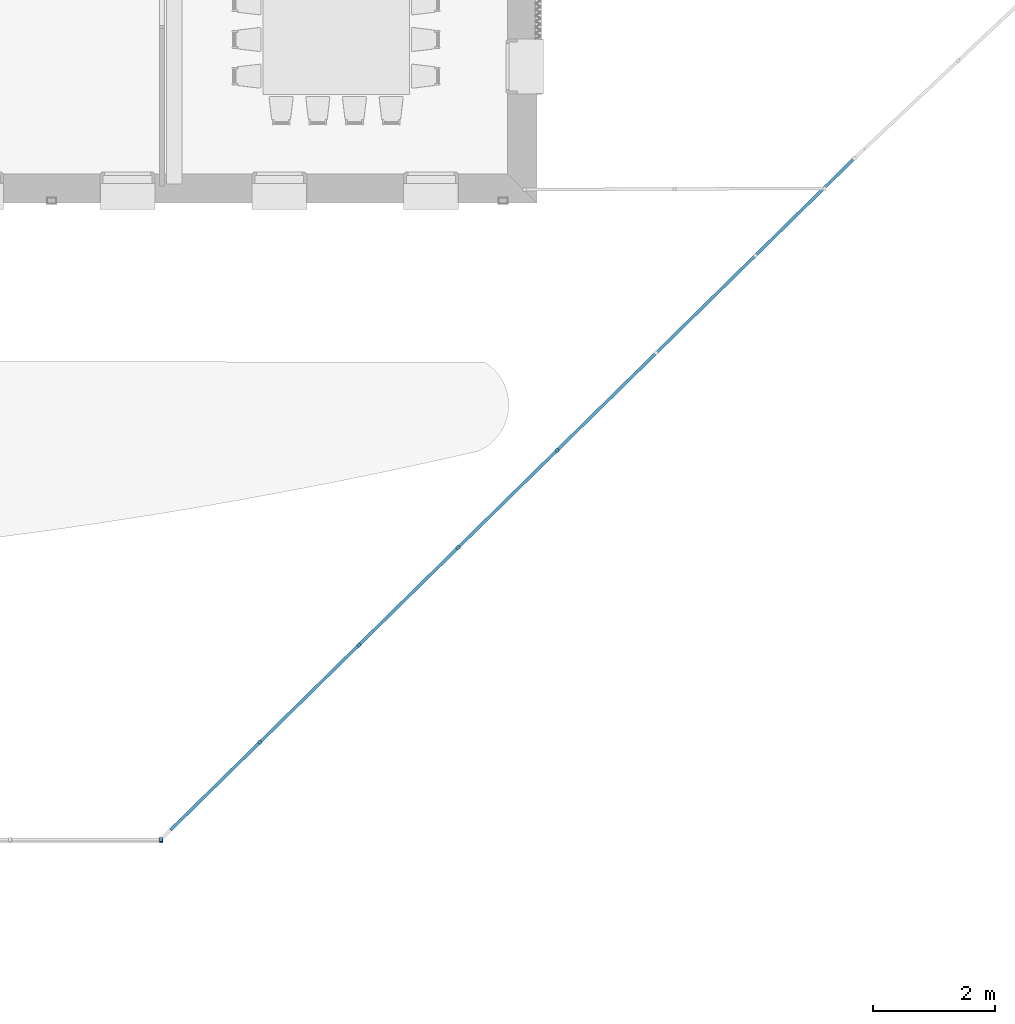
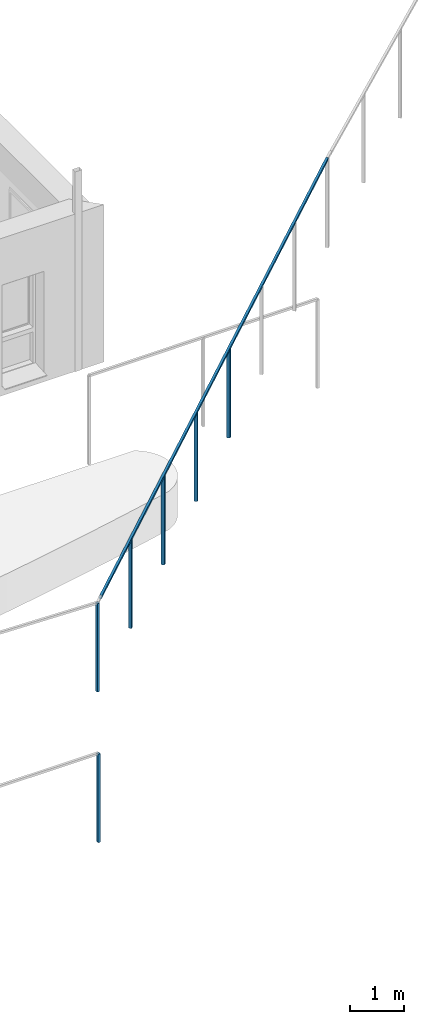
# One storey, part 57 of 91: 7 building element parts, 2 elements without a shape of their own.
"""IFC2X3 building model written with IfcOpenShell, lengths in metres."""

import ifcopenshell
import ifcopenshell.guid

model = None  # the IFC model being written
_history = None  # IfcOwnerHistory: only IFC2X3 demands one
_inside = {}  # id of a spatial element -> (the spatial element, [elements in it])
_under = {}  # id of a project, library or spatial element -> (it, [spatial elements below it])
_declared = {}  # id of a project -> (the project, [libraries it declares])
_typed = {}  # id of a type object -> (the type object, [elements of that type])
_made_of = {}  # id of a material, layer set ... -> (it, [elements and type objects made of it])


def new_model(schema):
    """Start an empty IFC model of exactly this schema.

    Asked for "IFC4X3", IfcOpenShell would pick the latest addendum, in which some entities
    have other attributes; the version numbers below select the first issue.
    IFC2X3 requires an IfcOwnerHistory on every rooted entity: one is made here for all.
    """
    global model, _history
    if schema == "IFC4X3":
        model = ifcopenshell.file(schema_version=(4, 3, 0, 0))
    else:
        model = ifcopenshell.file(schema=schema)
    _inside.clear()
    _under.clear()
    _declared.clear()
    _typed.clear()
    _made_of.clear()
    _history = None
    if model.schema == "IFC2X3":
        org = make("IfcOrganization", Name="unknown")
        user = make(
            "IfcPersonAndOrganization",
            ThePerson=make("IfcPerson", FamilyName="unknown"),
            TheOrganization=org,
        )
        app = make(
            "IfcApplication",
            ApplicationDeveloper=org,
            Version="unknown",
            ApplicationFullName="unknown",
            ApplicationIdentifier="unknown",
        )
        _history = make(
            "IfcOwnerHistory",
            OwningUser=user,
            OwningApplication=app,
            ChangeAction="ADDED",
            CreationDate=0,
        )
    return model


def make(cls, **values):
    """One entity of the class cls with the attributes given. An attribute that is None is left unset."""
    return model.create_entity(
        cls, **{name: value for name, value in values.items() if value is not None}
    )


def entity(cls, *values):
    """Any entity or typed value of the class cls, its attributes in the order of the schema. None: left unset."""
    e = model.create_entity(cls)
    for i, value in enumerate(values):
        if value is not None:
            e[i] = value
    return e


def rooted(cls, **values):
    """An entity with a GlobalId (a new one), such as an element, a storey or a relation."""
    return make(cls, GlobalId=ifcopenshell.guid.new(), OwnerHistory=_history, **values)


def si_unit(unit_type, name, prefix=None):
    """IfcSIUnit, for example si_unit("LENGTHUNIT", "METRE", prefix="MILLI")."""
    return make("IfcSIUnit", UnitType=unit_type, Prefix=prefix, Name=name)


def converted_unit(unit_type, name, factor, base, dimensions=None, offset=None):
    """IfcConversionBasedUnit, such as the inch: factor (a typed value) times the base unit."""
    return make(
        "IfcConversionBasedUnit"
        if offset is None
        else "IfcConversionBasedUnitWithOffset",
        ConversionOffset=offset,
        Dimensions=None
        if dimensions is None
        else entity("IfcDimensionalExponents", *dimensions),
        UnitType=unit_type,
        Name=name,
        ConversionFactor=make(
            "IfcMeasureWithUnit", ValueComponent=factor, UnitComponent=base
        ),
    )


def derived_unit(unit_type, elements):
    """IfcDerivedUnit: a product of units, each with its exponent."""
    return make(
        "IfcDerivedUnit",
        Elements=[
            make("IfcDerivedUnitElement", Unit=unit, Exponent=power)
            for unit, power in elements
        ],
        UnitType=unit_type,
    )


def money_unit(currency):
    """IfcMonetaryUnit."""
    return make("IfcMonetaryUnit", Currency=currency)


def assignment(units):
    """IfcUnitAssignment: the units of a project."""
    return None if units is None else make("IfcUnitAssignment", Units=units)


def point(xyz):
    """IfcCartesianPoint."""
    return None if xyz is None else make("IfcCartesianPoint", Coordinates=xyz)


def direction(xyz):
    """IfcDirection."""
    return None if xyz is None else make("IfcDirection", DirectionRatios=xyz)


def frame(location, z_axis=None, x_axis=None):
    """IfcAxis2Placement3D, a coordinate frame: its origin and axes. An axis left out is left unset."""
    return make(
        "IfcAxis2Placement3D",
        Location=point(location),
        Axis=direction(z_axis),
        RefDirection=direction(x_axis),
    )


def origin_with_axes():
    """The frame at (0, 0, 0) with the z axis (0, 0, 1) and the x axis (1, 0, 0) written out."""
    return frame((0.0, 0.0, 0.0), z_axis=(0.0, 0.0, 1.0), x_axis=(1.0, 0.0, 0.0))


def place(relative_to, where):
    """IfcLocalPlacement: puts the frame where relative to a parent placement (None: the world)."""
    return make(
        "IfcLocalPlacement", PlacementRelTo=relative_to, RelativePlacement=where
    )


def context(
    kind, dimensions, precision=None, world=None, true_north=None, identifier=None
):
    """IfcGeometricRepresentationContext, for example the 3D "Model" context."""
    return make(
        "IfcGeometricRepresentationContext",
        ContextIdentifier=identifier,
        ContextType=kind,
        CoordinateSpaceDimension=dimensions,
        Precision=precision,
        WorldCoordinateSystem=world,
        TrueNorth=true_north,
    )


def subcontext(parent, identifier, kind, view, scale=None):
    """IfcGeometricRepresentationSubContext, for example "Body" below "Model"."""
    return make(
        "IfcGeometricRepresentationSubContext",
        ContextIdentifier=identifier,
        ContextType=kind,
        ParentContext=parent,
        TargetScale=scale,
        TargetView=view,
    )


def project(units=None, contexts=None):
    """IfcProject with its units and contexts."""
    return rooted(
        "IfcProject",
        Name="project",
        RepresentationContexts=contexts,
        UnitsInContext=assignment(units),
    )


def spatial(cls, under=None, at=None, **own):
    """A site, building, storey or space (cls), placed at a placement, below another one or the project."""
    s = rooted(cls, ObjectPlacement=at, **own)
    if under is not None:
        _under.setdefault(under.id(), (under, []))[1].append(s)
    return s


def faces_of(points, faces, orient=None, outer=None):
    """IfcFace entities. A face is a list of loops; a loop is a list of indices into points, from 0.

    orient and outer hold one flag for each loop. By default every Orientation is true, the
    first loop of a face is its IfcFaceOuterBound and the others are IfcFaceBound.
    """
    made = []
    for i, loops in enumerate(faces):
        bounds = []
        for j, loop in enumerate(loops):
            is_outer = j == 0 if outer is None else outer[i][j]
            bounds.append(
                make(
                    "IfcFaceOuterBound" if is_outer else "IfcFaceBound",
                    Bound=make("IfcPolyLoop", Polygon=[points[k] for k in loop]),
                    Orientation=True if orient is None else orient[i][j],
                )
            )
        made.append(make("IfcFace", Bounds=bounds))
    return made


def faceted_brep(points, faces, orient=None, outer=None, voids=None):
    """IfcFacetedBrep: a solid bounded by flat faces; with voids (closed shells), ...WithVoids."""
    shared = [point(p) for p in points]
    hull = make("IfcClosedShell", CfsFaces=faces_of(shared, faces, orient, outer))
    if voids is None:
        return make("IfcFacetedBrep", Outer=hull)
    return make(
        "IfcFacetedBrepWithVoids",
        Outer=hull,
        Voids=[
            make(cls, CfsFaces=faces_of(shared, fs, o, b)) for cls, fs, o, b in voids
        ],
    )


def shape(context_of_items, identifier, shape_type, items):
    """IfcShapeRepresentation: the items that make up one representation, for example the "Body"."""
    return make(
        "IfcShapeRepresentation",
        ContextOfItems=context_of_items,
        RepresentationIdentifier=identifier,
        RepresentationType=shape_type,
        Items=items,
    )


def material(Name=None, Category=None):
    """IfcMaterial."""
    return make("IfcMaterial", Name=Name, Category=Category)


def made_of(thing, what):
    """Note that an element or type object is made of a material, layer set ...; save() writes the relation."""
    if what is not None:
        _made_of.setdefault(what.id(), (what, []))[1].append(thing)
    return thing


def type_object(cls, material=None, **own):
    """A type object (cls), such as IfcWallType, which elements share."""
    return made_of(rooted(cls, **own), material)


def element(
    cls,
    number,
    at=None,
    inside=None,
    cuts=None,
    type_object=None,
    material=None,
    context=None,
    identifier="Body",
    shape_type=None,
    held_by="IfcProductDefinitionShape",
    body=None,
    shapes=None,
    **own,
):
    """One element of the class cls, such as IfcWall. Its Tag is "e" and its number.

    at: its placement. inside: the storey or other place that contains it. cuts: it is an
    opening in that element (IfcRelVoidsElement). A single representation is given by context,
    identifier, shape_type and body (its items); several are given by shapes. held_by: the class
    of the entity that holds the representations. save() writes the other relations.
    """
    e = rooted(cls, Tag="e%d" % number, ObjectPlacement=at, **own)
    if body is not None:
        shapes = [shape(context, identifier, shape_type, body)]
    if shapes is not None:
        e.Representation = make(held_by, Representations=shapes)
    if inside is not None:
        _inside.setdefault(inside.id(), (inside, []))[1].append(e)
    if cuts is not None:
        rooted(
            "IfcRelVoidsElement", RelatingBuildingElement=cuts, RelatedOpeningElement=e
        )
    if type_object is not None:
        _typed.setdefault(type_object.id(), (type_object, []))[1].append(e)
    return made_of(e, material)


def aggregate(whole, parts):
    """IfcRelAggregates: a whole, such as a stair, and the parts it consists of."""
    return rooted("IfcRelAggregates", RelatingObject=whole, RelatedObjects=parts)


def save(model, path):
    """Write the relations noted so far, then the file.

    IfcRelAggregates (storeys below a building ...), IfcRelContainedInSpatialStructure (elements
    in a storey), IfcRelDefinesByType, IfcRelAssociatesMaterial and IfcRelDeclares: one each for
    every whole, place, type object, material and project.
    """
    for whole, parts in _under.values():
        aggregate(whole, parts)
    for where, things in _inside.values():
        rooted(
            "IfcRelContainedInSpatialStructure",
            RelatedElements=things,
            RelatingStructure=where,
        )
    for kind, things in _typed.values():
        rooted("IfcRelDefinesByType", RelatedObjects=things, RelatingType=kind)
    for what, things in _made_of.values():
        rooted("IfcRelAssociatesMaterial", RelatedObjects=things, RelatingMaterial=what)
    for by, libraries in _declared.values():
        rooted("IfcRelDeclares", RelatingContext=by, RelatedDefinitions=libraries)
    model.write(path)


model = new_model("IFC2X3")

# Units and contexts
model_context = context("Model", 3, precision=1e-05, world=origin_with_axes(), true_north=direction((0.0, 1.0)))
body_context = subcontext(model_context, "Body", "Model", "MODEL_VIEW")
ifc_project = project(units=[si_unit("LENGTHUNIT", "METRE"), si_unit("AREAUNIT", "SQUARE_METRE"), si_unit("VOLUMEUNIT", "CUBIC_METRE"), converted_unit("PLANEANGLEUNIT", "DEGREE", entity("IfcPlaneAngleMeasure", 0.0174532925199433), si_unit("PLANEANGLEUNIT", "RADIAN"), dimensions=[0, 0, 0, 0, 0, 0, 0]), money_unit("EUR"), converted_unit("TIMEUNIT", "Year", entity("IfcTimeMeasure", 31557600.0), si_unit("TIMEUNIT", "SECOND"), dimensions=[0, 0, 1, 0, 0, 0, 0]), si_unit("MASSUNIT", "GRAM", prefix="KILO"), si_unit("THERMODYNAMICTEMPERATUREUNIT", "DEGREE_CELSIUS"), si_unit("LUMINOUSINTENSITYUNIT", "LUMEN"), si_unit("ENERGYUNIT", "JOULE", prefix="MEGA"), derived_unit("THERMALCONDUCTANCEUNIT", [(si_unit("POWERUNIT", "WATT"), 1), (si_unit("LENGTHUNIT", "METRE"), -1), (si_unit("THERMODYNAMICTEMPERATUREUNIT", "KELVIN"), -1)]), derived_unit("SPECIFICHEATCAPACITYUNIT", [(si_unit("ENERGYUNIT", "JOULE"), 1), (si_unit("MASSUNIT", "GRAM", prefix="KILO"), -1), (si_unit("THERMODYNAMICTEMPERATUREUNIT", "KELVIN"), -1)]), derived_unit("MASSDENSITYUNIT", [(si_unit("MASSUNIT", "GRAM", prefix="KILO"), 1), (si_unit("VOLUMEUNIT", "CUBIC_METRE"), -1)])], contexts=[model_context])

# Site, building, storey
site_placement = place(None, origin_with_axes())
site = spatial("IfcSite", under=ifc_project, at=site_placement, Name="Site", CompositionType="ELEMENT")
building_placement = place(site_placement, origin_with_axes())
building = spatial("IfcBuilding", under=site, at=building_placement, Name="Bâtiment", CompositionType="ELEMENT")
storey_placement = place(building_placement, origin_with_axes())
storey = spatial("IfcBuildingStorey", under=building, at=storey_placement, Name="RDC", CompositionType="ELEMENT", Elevation=0.0)

# Proxy, building element parts
building_element_proxy_type = type_object("IfcBuildingElementProxyType", Name="Type de garde-corps", PredefinedType="NOTDEFINED")
proxy_1_placement = place(storey_placement, frame((79.63337255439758, 3.614023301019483, -2.37161404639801), z_axis=(0.0, 0.0, 1.0), x_axis=(1.0, 0.0, 0.0)))
proxy_1 = element("IfcBuildingElementProxy", 1, at=proxy_1_placement, inside=storey, type_object=building_element_proxy_type, Name="RAMPE-004")
ifc_material = material(Name="Acier Galva")
building_element_part_1_placement = place(proxy_1_placement, origin_with_axes())
building_element_part_1 = element("IfcBuildingElementPart", 2, at=building_element_part_1_placement, material=ifc_material, Name="Acier Galva", context=body_context, shape_type="Brep", body=[
    faceted_brep([(-25.48373139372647, -41.49592863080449, 3.394537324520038), (-25.48375990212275, -41.42992863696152, 3.393540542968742), (-25.48374564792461, -41.42992863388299, 5.395038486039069), (-25.53373139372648, -41.49592863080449, 3.395967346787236), (-25.53375990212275, -41.42992863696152, 3.39497056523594), (-25.53374564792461, -41.42992863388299, 5.395038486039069), (-25.48374564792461, -41.495928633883, 5.395038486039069), (-25.53374564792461, -41.495928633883, 5.395038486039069)], [[[0, 1, 2]], [[0, 3, 4, 1]], [[1, 4, 5, 2]], [[0, 2, 6]], [[3, 0, 6, 7]], [[4, 3, 7]], [[4, 7, 5]], [[6, 2, 5, 7]]]),
])
building_element_part_2_placement = place(proxy_1_placement, origin_with_axes())
building_element_part_2 = element("IfcBuildingElementPart", 3, at=building_element_part_2_placement, material=ifc_material, Name="Acier Galva", context=body_context, shape_type="Brep", body=[
    faceted_brep([(-25.33071508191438, -41.32308902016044, 5.4097837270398), (-25.36638423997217, -41.35812772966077, 5.361894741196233), (-14.14486533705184, -30.33493934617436, 4.683119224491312), (-25.3657537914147, -41.28741986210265, 5.4097837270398), (-25.40142294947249, -41.32245857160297, 5.361894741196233), (-14.17949701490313, -30.2988703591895, 4.683119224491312), (-14.14408749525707, -30.33419250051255, 4.733119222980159), (-14.17871917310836, -30.29812351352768, 4.733119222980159)], [[[0, 1, 2]], [[0, 3, 4, 1]], [[1, 5, 2]], [[0, 2, 6]], [[3, 0, 6]], [[4, 3, 7]], [[1, 4, 5]], [[6, 2, 5, 7]], [[3, 6, 7]], [[4, 7, 5]]]),
])
building_element_part_3_placement = place(proxy_1_placement, origin_with_axes())
building_element_part_3 = element("IfcBuildingElementPart", 4, at=building_element_part_3_placement, material=ifc_material, Name="Acier Galva", context=body_context, shape_type="Brep", body=[
    faceted_brep([(-23.84679217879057, -39.87660846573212, 3.295340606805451), (-23.893043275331, -39.82952517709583, 3.295340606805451), (-23.893043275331, -39.82952517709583, 5.295340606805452), (-23.84679217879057, -39.87660846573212, 5.295340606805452), (-23.88246133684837, -39.91164717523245, 3.297498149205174), (-23.92871243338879, -39.86456388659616, 3.297498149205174), (-23.92871243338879, -39.86456388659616, 5.297498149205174), (-23.88246133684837, -39.91164717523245, 5.297498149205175)], [[[0, 1, 2, 3]], [[0, 4, 5, 1]], [[1, 5, 6, 2]], [[3, 2, 6, 7]], [[4, 0, 3, 7]], [[5, 4, 7, 6]]]),
])
building_element_part_4_placement = place(proxy_1_placement, origin_with_axes())
building_element_part_4 = element("IfcBuildingElementPart", 5, at=building_element_part_4_placement, material=ifc_material, Name="Acier Galva", context=body_context, shape_type="Brep", body=[
    faceted_brep([(-22.22579883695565, -38.28426600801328, 3.197290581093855), (-22.27204993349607, -38.23718271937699, 3.197290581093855), (-22.27204993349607, -38.23718271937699, 5.197290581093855), (-22.22579883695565, -38.28426600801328, 5.197290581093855), (-22.26146799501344, -38.3193047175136, 3.199448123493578), (-22.30771909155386, -38.27222142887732, 3.199448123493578), (-22.30771909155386, -38.27222142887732, 5.199448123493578), (-22.26146799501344, -38.3193047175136, 5.199448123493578)], [[[0, 1, 2, 3]], [[0, 4, 5, 1]], [[1, 5, 6, 2]], [[3, 2, 6, 7]], [[4, 0, 3, 7]], [[5, 4, 7, 6]]]),
])
building_element_part_5_placement = place(proxy_1_placement, origin_with_axes())
building_element_part_5 = element("IfcBuildingElementPart", 6, at=building_element_part_5_placement, material=ifc_material, Name="Acier Galva", context=body_context, shape_type="Brep", body=[
    faceted_brep([(-20.60480549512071, -36.69192355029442, 3.099240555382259), (-20.65105659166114, -36.64484026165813, 3.099240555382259), (-20.65105659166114, -36.64484026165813, 5.099240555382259), (-20.60480549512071, -36.69192355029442, 5.099240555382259), (-20.64047465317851, -36.72696225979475, 3.101398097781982), (-20.68672574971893, -36.67987897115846, 3.101398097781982), (-20.68672574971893, -36.67987897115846, 5.101398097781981), (-20.64047465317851, -36.72696225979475, 5.101398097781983)], [[[0, 1, 2, 3]], [[0, 4, 5, 1]], [[1, 5, 6, 2]], [[3, 2, 6, 7]], [[4, 0, 3, 7]], [[5, 4, 7, 6]]]),
])
building_element_part_6_placement = place(proxy_1_placement, origin_with_axes())
building_element_part_6 = element("IfcBuildingElementPart", 7, at=building_element_part_6_placement, material=ifc_material, Name="Acier Galva", context=body_context, shape_type="Brep", body=[
    faceted_brep([(-18.98381215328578, -35.09958109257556, 3.001190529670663), (-19.03006324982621, -35.05249780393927, 3.001190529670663), (-19.03006324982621, -35.05249780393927, 5.001190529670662), (-18.98381215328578, -35.09958109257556, 5.001190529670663), (-19.01948131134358, -35.13461980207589, 3.003348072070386), (-19.065732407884, -35.0875365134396, 3.003348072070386), (-19.065732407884, -35.0875365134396, 5.003348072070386), (-19.01948131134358, -35.13461980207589, 5.003348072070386)], [[[0, 1, 2, 3]], [[0, 4, 5, 1]], [[1, 5, 6, 2]], [[3, 2, 6, 7]], [[4, 0, 3, 7]], [[5, 4, 7, 6]]]),
])
aggregate(proxy_1, [building_element_part_1, building_element_part_2, building_element_part_3, building_element_part_4, building_element_part_5, building_element_part_6])

# Proxy, building element part
proxy_2_placement = place(storey_placement, frame((54.13280691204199, -37.84890533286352, -2.37161404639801), z_axis=(0.0, 0.0, 1.0), x_axis=(1.0, 0.0, 0.0)))
proxy_2 = element("IfcBuildingElementProxy", 8, at=proxy_2_placement, inside=storey, type_object=building_element_proxy_type, Name="RAMPE-004")
building_element_part_7_placement = place(proxy_2_placement, origin_with_axes())
building_element_part_7 = element("IfcBuildingElementPart", 9, at=building_element_part_7_placement, material=ifc_material, Name="Acier Galva", context=body_context, shape_type="Brep", body=[
    faceted_brep([(-0.02499999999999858, 0.01299999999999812, 0.0), (-0.02499999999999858, -0.05300000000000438, 0.0), (-0.02499999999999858, -0.05300000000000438, 2.0), (-0.02499999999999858, 0.01299999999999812, 2.0), (0.02499999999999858, 0.01299999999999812, 0.0), (0.02499999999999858, -0.05300000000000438, 0.0), (0.02499999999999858, -0.05300000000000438, 2.0), (0.02499999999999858, 0.01299999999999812, 2.0)], [[[0, 1, 2, 3]], [[0, 4, 5, 1]], [[1, 5, 6, 2]], [[3, 2, 6, 7]], [[4, 0, 3, 7]], [[5, 4, 7, 6]]]),
])
aggregate(proxy_2, [building_element_part_7])

save(model, "model.ifc")
